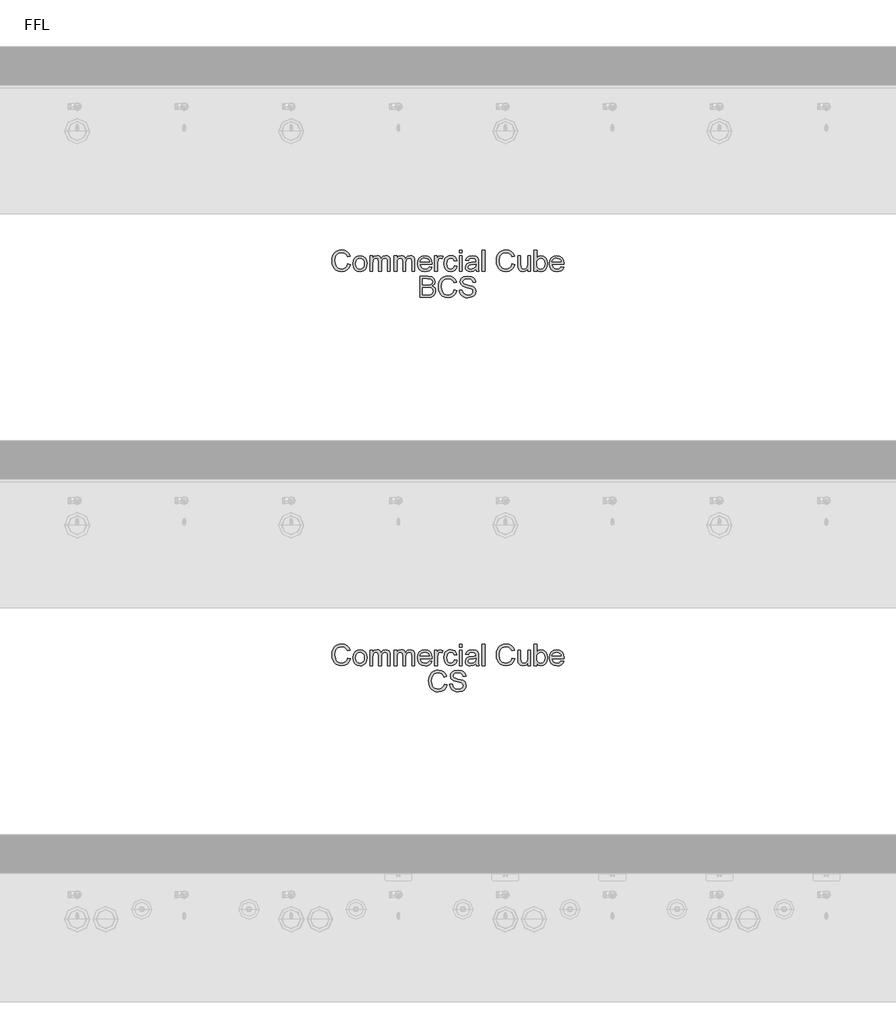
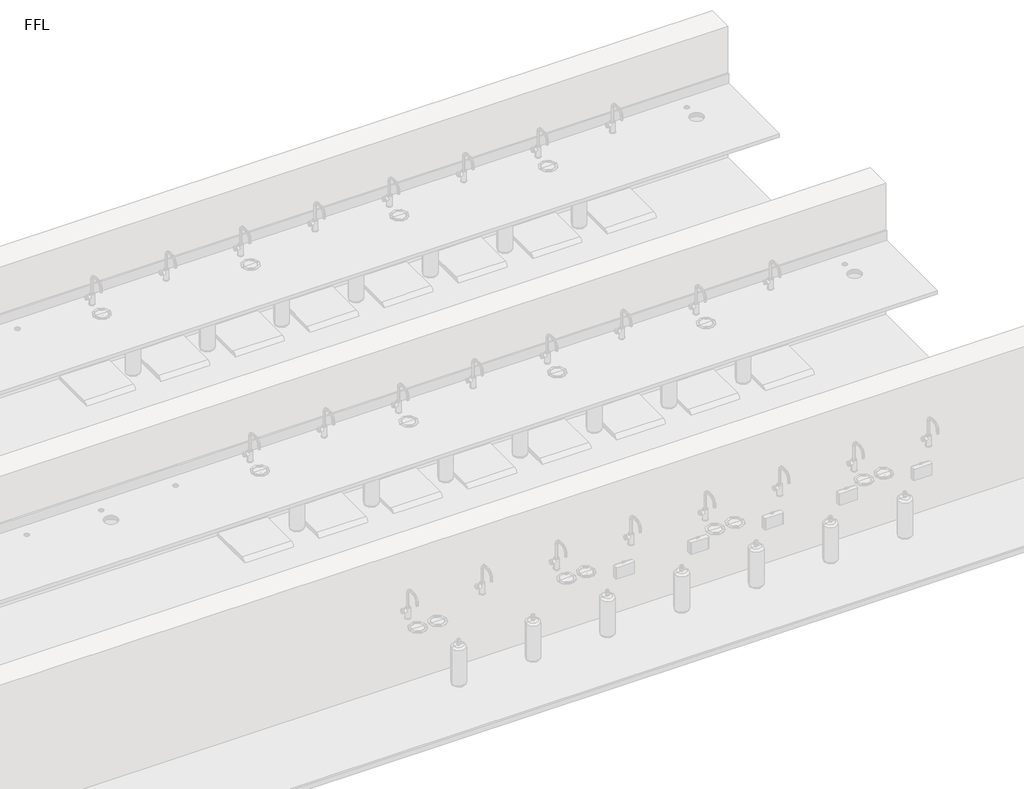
# One storey, part 13 of 14: 2 proxies.
"""IFC4 building model written with IfcOpenShell, lengths in millimetres."""

from ifc_helpers import new_model, si_unit, origin, origin_with_axes, place, context, project, spatial, polyline, outline, extrude, element, save

model = new_model("IFC4")

# Units and contexts
model_context = context("Model", 3, world=origin())
ifc_project = project(units=[si_unit("LENGTHUNIT", "METRE", prefix="MILLI")], contexts=[model_context])

# Site, building, storey
site = spatial("IfcSite", under=ifc_project)
building = spatial("IfcBuilding", under=site)
storey = spatial("IfcBuildingStorey", under=building, Name="FFL", Elevation=0.0)

# Proxies
placement = place(None, origin())
element("IfcBuildingElementProxy", 1, Name="150mm Arial", ObjectType="150mm Arial", at=placement, inside=storey, context=model_context, shape_type="SweptSolid", body=[
    extrude(outline(polyline([(6926.0339379, 3836.3018309), (6944.4954764, 3831.5422155), (6935.9768466, 3810.0292948), (6922.6084571, 3794.3126482), (6905.048361, 3784.698766), (6883.954611, 3781.4941386), (6862.540849, 3783.9190184), (6845.5351398, 3791.1936578), (6832.5002841, 3803.065653), (6822.9990821, 3819.2826001), (6817.1983009, 3838.3481049), (6815.2647071, 3858.7657732), (6817.4507047, 3880.3012299), (6824.0086975, 3898.8979847), (6834.5961374, 3913.9655929), (6848.8704764, 3924.9136097), (6865.7995629, 3931.5797756), (6884.3512456, 3933.8018309), (6904.5931326, 3930.9262299), (6921.3284091, 3922.299427), (6934.0342384, 3908.4532732), (6942.1877841, 3889.9196193), (6923.7262456, 3885.5205809), (6917.3260052, 3898.9836217), (6908.5820148, 3908.2188982), (6897.3861014, 3913.5599439), (6883.6300917, 3915.3402924), (6867.7737216, 3913.3661338), (6854.7478802, 3907.4436578), (6844.8635653, 3898.1948597), (6838.4317744, 3886.2417347), (6833.7262456, 3858.8018309), (6839.2971591, 3826.9989463), (6846.4185533, 3815.1224439), (6856.6409091, 3806.6804367), (6868.8960172, 3801.6368669), (6882.1156687, 3799.955677), (6897.5258249, 3802.2453405), (6910.3668706, 3809.1143309), (6920.0618826, 3820.4905328), (6926.0339379, 3836.3018309)])), origin_with_axes(), (0.0, 0.0, 1.0), 5.0),
    extrude(outline(polyline([(6962.9570148, 3838.0326001), (6966.9504042, 3864.1834415), (6978.9305725, 3882.5638501), (6993.7322552, 3891.5692588), (7011.454611, 3894.5710617), (7030.8491422, 3890.9157131), (7046.3404283, 3879.9496674), (7056.4951759, 3862.5383092), (7059.8800917, 3839.5470232), (7058.3836975, 3820.8961818), (7053.8945148, 3806.6984655), (7046.5432528, 3796.0659535), (7036.4606206, 3788.1107251), (7024.4849595, 3783.1482852), (7011.454611, 3781.4941386), (6991.8257047, 3785.1359655), (6976.3524475, 3796.0614463), (6966.305873, 3813.8378886), (6962.9570148, 3838.0326001)]), holes=[polyline([(6981.4185533, 3838.0686578), (6983.5549716, 3821.3604246), (6989.9642264, 3809.456879), (6999.6096591, 3802.3309775), (7011.454611, 3799.955677), (7023.2454764, 3802.3444992), (7032.8728802, 3809.5109655), (7039.282135, 3821.5722636), (7041.4185533, 3838.6455809), (7039.2686134, 3854.8670352), (7032.8187937, 3866.6083213), (7023.1778682, 3873.7342227), (7011.454611, 3876.1095232), (6999.6096591, 3873.7432371), (6989.9642264, 3866.644379), (6983.5549716, 3854.7678766), (6981.4185533, 3838.0686578)])]), origin_with_axes(), (0.0, 0.0, 1.0), 5.0),
    extrude(outline(polyline([(7080.6493225, 3783.8018309), (7080.6493225, 3892.2633693), (7099.110861, 3892.2633693), (7099.110861, 3874.4148117), (7111.8031687, 3889.0362059), (7129.8680725, 3894.5710617), (7140.1355004, 3893.1603044), (7148.3656687, 3888.9280328), (7158.5339379, 3873.1167347), (7172.938986, 3889.2074799), (7191.1300917, 3894.5710617), (7205.0077961, 3892.3399919), (7215.2707167, 3885.6467828), (7221.6123634, 3874.3111458), (7223.7262456, 3858.1527924), (7223.7262456, 3783.8018309), (7205.2647071, 3783.8018309), (7205.2647071, 3850.2201001), (7203.5519667, 3865.6347636), (7197.3500437, 3873.2249078), (7186.8031687, 3876.1095232), (7176.8016663, 3874.2615665), (7168.6481206, 3868.7176963), (7163.2259451, 3859.0993068), (7161.4185533, 3845.0277924), (7161.4185533, 3783.8018309), (7142.9570148, 3783.8018309), (7142.9570148, 3852.2753886), (7138.6841783, 3870.160004), (7133.0456566, 3874.6221434), (7124.6757648, 3876.1095232), (7111.0098994, 3872.143177), (7101.923361, 3860.5326001), (7099.110861, 3838.5013501), (7099.110861, 3783.8018309), (7080.6493225, 3783.8018309)])), origin_with_axes(), (0.0, 0.0, 1.0), 5.0),
    extrude(outline(polyline([(7251.4185533, 3783.8018309), (7251.4185533, 3892.2633693), (7269.8800917, 3892.2633693), (7269.8800917, 3874.4148117), (7282.5723994, 3889.0362059), (7300.6373033, 3894.5710617), (7310.9047312, 3893.1603044), (7319.1348994, 3888.9280328), (7329.3031687, 3873.1167347), (7343.7082167, 3889.2074799), (7361.8993225, 3894.5710617), (7375.7770268, 3892.3399919), (7386.0399475, 3885.6467828), (7392.3815941, 3874.3111458), (7394.4954764, 3858.1527924), (7394.4954764, 3783.8018309), (7376.0339379, 3783.8018309), (7376.0339379, 3850.2201001), (7374.3211975, 3865.6347636), (7368.1192744, 3873.2249078), (7357.5723994, 3876.1095232), (7347.570897, 3874.2615665), (7339.4173514, 3868.7176963), (7333.9951759, 3859.0993068), (7332.1877841, 3845.0277924), (7332.1877841, 3783.8018309), (7313.7262456, 3783.8018309), (7313.7262456, 3852.2753886), (7309.4534091, 3870.160004), (7303.8148874, 3874.6221434), (7295.4449956, 3876.1095232), (7281.7791302, 3872.143177), (7272.6925917, 3860.5326001), (7269.8800917, 3838.5013501), (7269.8800917, 3783.8018309), (7251.4185533, 3783.8018309)])), origin_with_axes(), (0.0, 0.0, 1.0), 5.0),
    extrude(outline(polyline([(7498.1252841, 3816.1095232), (7516.2262456, 3813.8018309), (7509.7043105, 3800.1630088), (7499.2971591, 3789.9676963), (7485.2391663, 3783.612528), (7467.7647071, 3781.4941386), (7446.1030485, 3785.1494871), (7429.4353802, 3796.1155328), (7418.8073754, 3813.6801362), (7415.2647071, 3837.1311578), (7418.8434331, 3861.3709415), (7429.579611, 3879.4989463), (7446.0219187, 3890.8030328), (7466.7190341, 3894.5710617), (7486.7716182, 3890.8120472), (7502.7947552, 3879.535004), (7513.3010653, 3861.4430568), (7516.8031687, 3837.2393309), (7516.6949956, 3832.2633693), (7433.7262456, 3832.2633693), (7436.9218586, 3818.4442588), (7444.345236, 3808.285004), (7455.0588778, 3802.0380088), (7468.1252841, 3799.955677), (7486.2262456, 3803.8138501), (7498.1252841, 3816.1095232)]), holes=[polyline([(7433.7262456, 3850.7249078), (7498.3416302, 3850.7249078), (7495.844635, 3860.4785136), (7490.9498033, 3867.455677), (7480.1865821, 3873.9460617), (7466.6469187, 3876.1095232), (7454.2025076, 3874.3832612), (7443.9125437, 3869.2044751), (7436.759599, 3861.1320592), (7433.7262456, 3850.7249078)])]), origin_with_axes(), (0.0, 0.0, 1.0), 5.0),
    extrude(outline(polyline([(7535.2647071, 3783.8018309), (7535.2647071, 3892.2633693), (7551.4185533, 3892.2633693), (7551.4185533, 3876.2176963), (7562.8848994, 3891.0013501), (7574.423361, 3894.5710617), (7592.9570148, 3888.8739463), (7586.7911494, 3872.3234655), (7573.8103802, 3876.1095232), (7563.3716783, 3872.4676963), (7556.7190341, 3862.3715424), (7553.7262456, 3840.8090424), (7553.7262456, 3783.8018309), (7535.2647071, 3783.8018309)])), origin_with_axes(), (0.0, 0.0, 1.0), 5.0),
    extrude(outline(polyline([(7673.7262456, 3823.0326001), (7692.1877841, 3820.7249078), (7687.0405485, 3804.3051362), (7677.3680725, 3791.8967828), (7664.0808129, 3784.0947996), (7648.0892264, 3781.4941386), (7628.4513057, 3785.1224439), (7613.095236, 3796.0073597), (7603.1838778, 3813.6711217), (7599.8800917, 3837.6359655), (7605.5231206, 3868.3030328), (7612.6445148, 3879.8009294), (7622.7226398, 3888.0085617), (7634.7794307, 3892.9304367), (7647.8368225, 3894.5710617), (7663.4362816, 3892.3174559), (7675.907736, 3885.5566386), (7684.8545509, 3874.6491867), (7689.8800917, 3859.955677), (7671.4185533, 3857.6479847), (7662.8548514, 3871.4761097), (7647.9810533, 3876.1095232), (7636.0504643, 3873.8288742), (7626.5808129, 3866.986927), (7620.4014259, 3855.2140905), (7618.3416302, 3838.1407732), (7620.3563538, 3820.8375881), (7626.4005244, 3809.0241867), (7635.6989018, 3802.2228044), (7647.4762456, 3799.955677), (7657.0360413, 3801.3709415), (7664.8740821, 3805.6167347), (7670.5757047, 3812.8012299), (7673.7262456, 3823.0326001)])), origin_with_axes(), (0.0, 0.0, 1.0), 5.0),
    extrude(outline(polyline([(7708.3416302, 3913.0326001), (7708.3416302, 3931.4941386), (7726.8031687, 3931.4941386), (7726.8031687, 3913.0326001), (7708.3416302, 3913.0326001)])), origin_with_axes(), (0.0, 0.0, 1.0), 5.0),
    extrude(outline(polyline([(7708.3416302, 3783.8018309), (7708.3416302, 3892.2633693), (7726.8031687, 3892.2633693), (7726.8031687, 3783.8018309), (7708.3416302, 3783.8018309)])), origin_with_axes(), (0.0, 0.0, 1.0), 5.0),
    extrude(outline(polyline([(7823.7262456, 3797.6479847), (7805.8236014, 3785.1359655), (7786.0459571, 3781.4941386), (7770.617772, 3783.6846434), (7759.2370629, 3790.2561578), (7752.2193345, 3800.2351242), (7749.8800917, 3812.6479847), (7753.4137456, 3827.2513501), (7762.6986014, 3837.8523117), (7775.6252841, 3843.910004), (7791.5988417, 3846.6864463), (7823.6180725, 3853.0326001), (7823.7262456, 3857.143177), (7822.4552119, 3865.3823597), (7818.642111, 3870.7729847), (7810.1144667, 3874.7753886), (7798.2334571, 3876.1095232), (7779.5555725, 3872.5578405), (7770.6493225, 3859.955677), (7752.1877841, 3862.2633693), (7760.1745629, 3880.2922155), (7776.2562937, 3890.8571193), (7800.6132648, 3894.5710617), (7822.9870629, 3891.2898117), (7835.6252841, 3883.050629), (7841.2863417, 3870.5205809), (7842.1877841, 3854.3667347), (7842.1877841, 3831.3979847), (7843.1252841, 3799.3246674), (7846.8031687, 3783.8018309), (7828.3416302, 3783.8018309), (7823.7262456, 3797.6479847)]), holes=[polyline([(7823.7262456, 3834.5710617), (7793.9425917, 3828.910004), (7778.0591783, 3825.9172155), (7770.8656687, 3821.049427), (7768.3416302, 3813.9460617), (7773.8404283, 3803.9580809), (7789.9762456, 3799.955677), (7808.6541302, 3804.3727443), (7820.6973994, 3815.0638501), (7823.6180725, 3829.3426963), (7823.7262456, 3834.5710617)])]), origin_with_axes(), (0.0, 0.0, 1.0), 5.0),
    extrude(outline(polyline([(7867.5723994, 3783.8018309), (7867.5723994, 3931.4941386), (7886.0339379, 3931.4941386), (7886.0339379, 3783.8018309), (7867.5723994, 3783.8018309)])), origin_with_axes(), (0.0, 0.0, 1.0), 5.0),
    extrude(outline(polyline([(8077.5723994, 3836.3018309), (8096.0339379, 3831.5422155), (8087.5153081, 3810.0292948), (8074.1469187, 3794.3126482), (8056.5868225, 3784.698766), (8035.4930725, 3781.4941386), (8014.0793105, 3783.9190184), (7997.0736014, 3791.1936578), (7984.0387456, 3803.065653), (7974.5375437, 3819.2826001), (7968.7367624, 3838.3481049), (7966.8031687, 3858.7657732), (7968.9891663, 3880.3012299), (7975.5471591, 3898.8979847), (7986.134599, 3913.9655929), (8000.4089379, 3924.9136097), (8017.3380244, 3931.5797756), (8035.8897071, 3933.8018309), (8056.1315941, 3930.9262299), (8072.8668706, 3922.299427), (8085.5726999, 3908.4532732), (8093.7262456, 3889.9196193), (8075.2647071, 3885.5205809), (8068.8644667, 3898.9836217), (8060.1204764, 3908.2188982), (8048.9245629, 3913.5599439), (8035.1685533, 3915.3402924), (8019.3121831, 3913.3661338), (8006.2863417, 3907.4436578), (7996.4020268, 3898.1948597), (7989.970236, 3886.2417347), (7985.2647071, 3858.8018309), (7990.8356206, 3826.9989463), (7997.9570148, 3815.1224439), (8008.1793706, 3806.6804367), (8020.4344788, 3801.6368669), (8033.6541302, 3799.955677), (8049.0642865, 3802.2453405), (8061.9053321, 3809.1143309), (8071.6003441, 3820.4905328), (8077.5723994, 3836.3018309)])), origin_with_axes(), (0.0, 0.0, 1.0), 5.0),
    extrude(outline(polyline([(8188.3416302, 3783.8018309), (8188.3416302, 3802.4436578), (8173.8824956, 3786.7315184), (8155.0243225, 3781.4941386), (8137.6625437, 3785.1720232), (8125.6913898, 3794.4027924), (8120.1925917, 3807.9965424), (8119.110861, 3825.160004), (8119.110861, 3892.2633693), (8137.5723994, 3892.2633693), (8137.5723994, 3833.8499078), (8138.6901879, 3815.0277924), (8145.9918706, 3803.9761097), (8159.7478802, 3799.955677), (8175.1625437, 3804.066254), (8185.3488417, 3815.2621674), (8188.3416302, 3835.8330809), (8188.3416302, 3892.2633693), (8206.8031687, 3892.2633693), (8206.8031687, 3783.8018309), (8188.3416302, 3783.8018309)])), origin_with_axes(), (0.0, 0.0, 1.0), 5.0),
    extrude(outline(polyline([(8250.6493225, 3783.8018309), (8232.1877841, 3783.8018309), (8232.1877841, 3931.4941386), (8250.6493225, 3931.4941386), (8250.6493225, 3876.722504), (8263.5760052, 3890.1089222), (8279.6397071, 3894.5710617), (8298.1373033, 3890.550629), (8312.4882648, 3879.2465424), (8321.3043706, 3861.6684174), (8324.4954764, 3839.6551963), (8321.1916903, 3815.0097636), (8311.2803321, 3796.674427), (8296.7355605, 3785.2892107), (8279.5315341, 3781.4941386), (8263.1162696, 3786.3889703), (8250.6493225, 3801.0734655), (8250.6493225, 3783.8018309)]), holes=[polyline([(8250.6493225, 3838.7898117), (8251.9113417, 3823.393177), (8255.6973994, 3812.972504), (8265.3698754, 3803.2098838), (8277.9449956, 3799.955677), (8288.6000437, 3802.3535136), (8297.704611, 3809.5470232), (8303.9516062, 3821.4911338), (8306.0339379, 3838.1407732), (8304.0372432, 3855.033802), (8298.0471591, 3866.8426963), (8289.2265461, 3873.7928165), (8278.7382648, 3876.1095232), (8268.0832167, 3873.7116867), (8258.9786494, 3866.518177), (8252.7316542, 3854.7904126), (8250.6493225, 3838.7898117)])]), origin_with_axes(), (0.0, 0.0, 1.0), 5.0),
    extrude(outline(polyline([(8421.2022071, 3816.1095232), (8439.3031687, 3813.8018309), (8432.7812336, 3800.1630088), (8422.3740821, 3789.9676963), (8408.3160893, 3783.612528), (8390.8416302, 3781.4941386), (8369.1799716, 3785.1494871), (8352.5123033, 3796.1155328), (8341.8842985, 3813.6801362), (8338.3416302, 3837.1311578), (8341.9203562, 3861.3709415), (8352.6565341, 3879.4989463), (8369.0988417, 3890.8030328), (8389.7959571, 3894.5710617), (8409.8485413, 3890.8120472), (8425.8716783, 3879.535004), (8436.3779884, 3861.4430568), (8439.8800917, 3837.2393309), (8439.7719187, 3832.2633693), (8356.8031687, 3832.2633693), (8359.9987816, 3818.4442588), (8367.4221591, 3808.285004), (8378.1358009, 3802.0380088), (8391.2022071, 3799.955677), (8409.3031687, 3803.8138501), (8421.2022071, 3816.1095232)]), holes=[polyline([(8356.8031687, 3850.7249078), (8421.4185533, 3850.7249078), (8418.9215581, 3860.4785136), (8414.0267264, 3867.455677), (8403.2635052, 3873.9460617), (8389.7238417, 3876.1095232), (8377.2794307, 3874.3832612), (8366.9894667, 3869.2044751), (8359.836522, 3861.1320592), (8356.8031687, 3850.7249078)])]), origin_with_axes(), (0.0, 0.0, 1.0), 5.0),
    extrude(outline(polyline([(7431.4185533, 3601.4941386), (7431.4185533, 3749.1864463), (7487.7767264, 3749.1864463), (7515.3788898, 3744.8414943), (7524.6547312, 3739.3291746), (7531.6769667, 3731.4821193), (7537.5723994, 3712.5878886), (7532.6144667, 3695.3342828), (7517.6324956, 3682.2633693), (7528.0937336, 3676.800629), (7535.8236014, 3668.4893309), (7540.5967384, 3657.8793549), (7542.1877841, 3645.5205809), (7537.8428321, 3625.6708213), (7527.079611, 3611.5362059), (7511.0159091, 3604.0362059), (7487.3440341, 3601.4941386), (7431.4185533, 3601.4941386)]), holes=[polyline([(7449.8800917, 3689.1864463), (7483.5940341, 3689.1864463), (7503.2815341, 3690.7729847), (7515.126486, 3697.6059174), (7519.110861, 3709.6311578), (7515.3969187, 3721.674427), (7504.7598994, 3728.7958213), (7481.0339379, 3730.7249078), (7449.8800917, 3730.7249078), (7449.8800917, 3689.1864463)]), polyline([(7449.8800917, 3619.955677), (7487.7406687, 3619.955677), (7501.4425917, 3620.6768309), (7513.0351398, 3624.6972636), (7520.7154283, 3632.9003886), (7523.7262456, 3645.3402924), (7520.1925917, 3659.691254), (7508.7442744, 3668.2549559), (7485.9377841, 3670.7249078), (7449.8800917, 3670.7249078), (7449.8800917, 3619.955677)])]), origin_with_axes(), (0.0, 0.0, 1.0), 5.0),
    extrude(outline(polyline([(7671.4185533, 3653.9941386), (7689.8800917, 3649.2345232), (7681.3614619, 3627.7216025), (7667.9930725, 3612.0049559), (7650.4329764, 3602.3910737), (7629.3392264, 3599.1864463), (7607.9254643, 3601.6113261), (7590.9197552, 3608.8859655), (7577.8848994, 3620.7579607), (7568.3836975, 3636.9749078), (7562.5829163, 3656.0404126), (7560.6493225, 3676.4580809), (7562.8353201, 3697.9935376), (7569.3933129, 3716.5902924), (7579.9807528, 3731.6579006), (7594.2550917, 3742.6059174), (7611.1841783, 3749.2720833), (7629.735861, 3751.4941386), (7649.977748, 3748.6185376), (7666.7130244, 3739.9917347), (7679.4188538, 3726.1455809), (7687.5723994, 3707.611927), (7669.110861, 3703.2128886), (7662.7106206, 3716.6759294), (7653.9666302, 3725.9112059), (7642.7707167, 3731.2522516), (7629.0147071, 3733.0326001), (7613.1583369, 3731.0584415), (7600.1324956, 3725.1359655), (7590.2481807, 3715.8871674), (7583.8163898, 3703.9340424), (7579.110861, 3676.4941386), (7584.6817744, 3644.691254), (7591.8031687, 3632.8147516), (7602.0255244, 3624.3727443), (7614.2806326, 3619.3291746), (7627.5002841, 3617.6479847), (7642.9104403, 3619.9376482), (7655.751486, 3626.8066386), (7665.446498, 3638.1828405), (7671.4185533, 3653.9941386)])), origin_with_axes(), (0.0, 0.0, 1.0), 5.0),
    extrude(outline(polyline([(7708.3416302, 3652.2633693), (7726.8031687, 3652.2633693), (7732.7526879, 3633.783802), (7747.2839379, 3622.1011097), (7769.423361, 3617.6479847), (7788.7142264, 3621.019379), (7801.1721591, 3630.2862059), (7805.2647071, 3642.6720232), (7802.1998033, 3654.1924559), (7789.6517264, 3662.5758693), (7762.7707167, 3669.6251482), (7733.8344187, 3678.7297155), (7718.1312937, 3692.4676963), (7712.9570148, 3710.8210617), (7714.5570749, 3721.6338621), (7719.3572552, 3731.7164943), (7727.2313538, 3740.2621674), (7738.0531687, 3746.4640905), (7765.4209571, 3751.4941386), (7794.6276879, 3746.2297155), (7805.8236014, 3739.7303165), (7814.0988417, 3730.7609655), (7819.3362216, 3719.8805568), (7821.4185533, 3707.6479847), (7802.9570148, 3707.6479847), (7799.5675917, 3718.6636097), (7792.5002841, 3726.6143309), (7781.4576158, 3731.4280328), (7766.142111, 3733.0326001), (7750.4660292, 3731.4460617), (7739.7118225, 3726.6864463), (7733.4918706, 3719.6822395), (7731.4185533, 3711.361927), (7732.8879042, 3704.2675761), (7737.2959571, 3698.5614463), (7767.4401879, 3688.2489463), (7800.1084571, 3678.9821193), (7810.6327961, 3672.284403), (7817.9750437, 3664.018177), (7823.7262456, 3643.1407732), (7822.072099, 3631.7600641), (7817.1096591, 3621.0554367), (7809.0417504, 3611.8426963), (7798.0711975, 3604.9376482), (7770.1445148, 3599.1864463), (7752.0570749, 3600.736927), (7737.1697552, 3605.3883693), (7725.3112816, 3613.158802), (7716.3103802, 3624.066254), (7710.532135, 3637.3535136), (7708.3416302, 3652.2633693)])), origin_with_axes(), (0.0, 0.0, 1.0), 5.0),
])
element("IfcBuildingElementProxy", 2, Name="150mm Arial", ObjectType="150mm Arial", at=placement, inside=storey, context=model_context, shape_type="SweptSolid", body=[
    extrude(outline(polyline([(6926.0339379, 1076.3018309), (6944.4954764, 1071.5422155), (6935.9768466, 1050.0292948), (6922.6084571, 1034.3126482), (6905.048361, 1024.698766), (6883.954611, 1021.4941386), (6862.540849, 1023.9190184), (6845.5351398, 1031.1936578), (6832.5002841, 1043.065653), (6822.9990821, 1059.2826001), (6817.1983009, 1078.3481049), (6815.2647071, 1098.7657732), (6817.4507047, 1120.3012299), (6824.0086975, 1138.8979847), (6834.5961374, 1153.9655929), (6848.8704764, 1164.9136097), (6865.7995629, 1171.5797756), (6884.3512456, 1173.8018309), (6904.5931326, 1170.9262299), (6921.3284091, 1162.299427), (6934.0342384, 1148.4532732), (6942.1877841, 1129.9196193), (6923.7262456, 1125.5205809), (6917.3260052, 1138.9836217), (6908.5820148, 1148.2188982), (6897.3861014, 1153.5599439), (6883.6300917, 1155.3402924), (6867.7737216, 1153.3661338), (6854.7478802, 1147.4436578), (6844.8635653, 1138.1948597), (6838.4317744, 1126.2417347), (6833.7262456, 1098.8018309), (6839.2971591, 1066.9989463), (6846.4185533, 1055.1224439), (6856.6409091, 1046.6804367), (6868.8960172, 1041.6368669), (6882.1156687, 1039.955677), (6897.5258249, 1042.2453405), (6910.3668706, 1049.1143309), (6920.0618826, 1060.4905328), (6926.0339379, 1076.3018309)])), origin_with_axes(), (0.0, 0.0, 1.0), 5.0),
    extrude(outline(polyline([(6962.9570148, 1078.0326001), (6966.9504042, 1104.1834415), (6978.9305725, 1122.5638501), (6993.7322552, 1131.5692588), (7011.454611, 1134.5710617), (7030.8491422, 1130.9157131), (7046.3404283, 1119.9496674), (7056.4951759, 1102.5383092), (7059.8800917, 1079.5470232), (7058.3836975, 1060.8961818), (7053.8945148, 1046.6984655), (7046.5432528, 1036.0659535), (7036.4606206, 1028.1107251), (7024.4849595, 1023.1482852), (7011.454611, 1021.4941386), (6991.8257047, 1025.1359655), (6976.3524475, 1036.0614463), (6966.305873, 1053.8378886), (6962.9570148, 1078.0326001)]), holes=[polyline([(6981.4185533, 1078.0686578), (6983.5549716, 1061.3604246), (6989.9642264, 1049.456879), (6999.6096591, 1042.3309775), (7011.454611, 1039.955677), (7023.2454764, 1042.3444992), (7032.8728802, 1049.5109655), (7039.282135, 1061.5722636), (7041.4185533, 1078.6455809), (7039.2686134, 1094.8670352), (7032.8187937, 1106.6083213), (7023.1778682, 1113.7342227), (7011.454611, 1116.1095232), (6999.6096591, 1113.7432371), (6989.9642264, 1106.644379), (6983.5549716, 1094.7678766), (6981.4185533, 1078.0686578)])]), origin_with_axes(), (0.0, 0.0, 1.0), 5.0),
    extrude(outline(polyline([(7080.6493225, 1023.8018309), (7080.6493225, 1132.2633693), (7099.110861, 1132.2633693), (7099.110861, 1114.4148117), (7111.8031687, 1129.0362059), (7129.8680725, 1134.5710617), (7140.1355004, 1133.1603044), (7148.3656687, 1128.9280328), (7158.5339379, 1113.1167347), (7172.938986, 1129.2074799), (7191.1300917, 1134.5710617), (7205.0077961, 1132.3399919), (7215.2707167, 1125.6467828), (7221.6123634, 1114.3111458), (7223.7262456, 1098.1527924), (7223.7262456, 1023.8018309), (7205.2647071, 1023.8018309), (7205.2647071, 1090.2201001), (7203.5519667, 1105.6347636), (7197.3500437, 1113.2249078), (7186.8031687, 1116.1095232), (7176.8016663, 1114.2615665), (7168.6481206, 1108.7176963), (7163.2259451, 1099.0993068), (7161.4185533, 1085.0277924), (7161.4185533, 1023.8018309), (7142.9570148, 1023.8018309), (7142.9570148, 1092.2753886), (7138.6841783, 1110.160004), (7133.0456566, 1114.6221434), (7124.6757648, 1116.1095232), (7111.0098994, 1112.143177), (7101.923361, 1100.5326001), (7099.110861, 1078.5013501), (7099.110861, 1023.8018309), (7080.6493225, 1023.8018309)])), origin_with_axes(), (0.0, 0.0, 1.0), 5.0),
    extrude(outline(polyline([(7251.4185533, 1023.8018309), (7251.4185533, 1132.2633693), (7269.8800917, 1132.2633693), (7269.8800917, 1114.4148117), (7282.5723994, 1129.0362059), (7300.6373033, 1134.5710617), (7310.9047312, 1133.1603044), (7319.1348994, 1128.9280328), (7329.3031687, 1113.1167347), (7343.7082167, 1129.2074799), (7361.8993225, 1134.5710617), (7375.7770268, 1132.3399919), (7386.0399475, 1125.6467828), (7392.3815941, 1114.3111458), (7394.4954764, 1098.1527924), (7394.4954764, 1023.8018309), (7376.0339379, 1023.8018309), (7376.0339379, 1090.2201001), (7374.3211975, 1105.6347636), (7368.1192744, 1113.2249078), (7357.5723994, 1116.1095232), (7347.570897, 1114.2615665), (7339.4173514, 1108.7176963), (7333.9951759, 1099.0993068), (7332.1877841, 1085.0277924), (7332.1877841, 1023.8018309), (7313.7262456, 1023.8018309), (7313.7262456, 1092.2753886), (7309.4534091, 1110.160004), (7303.8148874, 1114.6221434), (7295.4449956, 1116.1095232), (7281.7791302, 1112.143177), (7272.6925917, 1100.5326001), (7269.8800917, 1078.5013501), (7269.8800917, 1023.8018309), (7251.4185533, 1023.8018309)])), origin_with_axes(), (0.0, 0.0, 1.0), 5.0),
    extrude(outline(polyline([(7498.1252841, 1056.1095232), (7516.2262456, 1053.8018309), (7509.7043105, 1040.1630088), (7499.2971591, 1029.9676963), (7485.2391663, 1023.612528), (7467.7647071, 1021.4941386), (7446.1030485, 1025.1494871), (7429.4353802, 1036.1155328), (7418.8073754, 1053.6801362), (7415.2647071, 1077.1311578), (7418.8434331, 1101.3709415), (7429.579611, 1119.4989463), (7446.0219187, 1130.8030328), (7466.7190341, 1134.5710617), (7486.7716182, 1130.8120472), (7502.7947552, 1119.535004), (7513.3010653, 1101.4430568), (7516.8031687, 1077.2393309), (7516.6949956, 1072.2633693), (7433.7262456, 1072.2633693), (7436.9218586, 1058.4442588), (7444.345236, 1048.285004), (7455.0588778, 1042.0380088), (7468.1252841, 1039.955677), (7486.2262456, 1043.8138501), (7498.1252841, 1056.1095232)]), holes=[polyline([(7433.7262456, 1090.7249078), (7498.3416302, 1090.7249078), (7495.844635, 1100.4785136), (7490.9498033, 1107.455677), (7480.1865821, 1113.9460617), (7466.6469187, 1116.1095232), (7454.2025076, 1114.3832612), (7443.9125437, 1109.2044751), (7436.759599, 1101.1320592), (7433.7262456, 1090.7249078)])]), origin_with_axes(), (0.0, 0.0, 1.0), 5.0),
    extrude(outline(polyline([(7535.2647071, 1023.8018309), (7535.2647071, 1132.2633693), (7551.4185533, 1132.2633693), (7551.4185533, 1116.2176963), (7562.8848994, 1131.0013501), (7574.423361, 1134.5710617), (7592.9570148, 1128.8739463), (7586.7911494, 1112.3234655), (7573.8103802, 1116.1095232), (7563.3716783, 1112.4676963), (7556.7190341, 1102.3715424), (7553.7262456, 1080.8090424), (7553.7262456, 1023.8018309), (7535.2647071, 1023.8018309)])), origin_with_axes(), (0.0, 0.0, 1.0), 5.0),
    extrude(outline(polyline([(7673.7262456, 1063.0326001), (7692.1877841, 1060.7249078), (7687.0405485, 1044.3051362), (7677.3680725, 1031.8967828), (7664.0808129, 1024.0947996), (7648.0892264, 1021.4941386), (7628.4513057, 1025.1224439), (7613.095236, 1036.0073597), (7603.1838778, 1053.6711217), (7599.8800917, 1077.6359655), (7605.5231206, 1108.3030328), (7612.6445148, 1119.8009294), (7622.7226398, 1128.0085617), (7634.7794307, 1132.9304367), (7647.8368225, 1134.5710617), (7663.4362816, 1132.3174559), (7675.907736, 1125.5566386), (7684.8545509, 1114.6491867), (7689.8800917, 1099.955677), (7671.4185533, 1097.6479847), (7662.8548514, 1111.4761097), (7647.9810533, 1116.1095232), (7636.0504643, 1113.8288742), (7626.5808129, 1106.986927), (7620.4014259, 1095.2140905), (7618.3416302, 1078.1407732), (7620.3563538, 1060.8375881), (7626.4005244, 1049.0241867), (7635.6989018, 1042.2228044), (7647.4762456, 1039.955677), (7657.0360413, 1041.3709415), (7664.8740821, 1045.6167347), (7670.5757047, 1052.8012299), (7673.7262456, 1063.0326001)])), origin_with_axes(), (0.0, 0.0, 1.0), 5.0),
    extrude(outline(polyline([(7708.3416302, 1153.0326001), (7708.3416302, 1171.4941386), (7726.8031687, 1171.4941386), (7726.8031687, 1153.0326001), (7708.3416302, 1153.0326001)])), origin_with_axes(), (0.0, 0.0, 1.0), 5.0),
    extrude(outline(polyline([(7708.3416302, 1023.8018309), (7708.3416302, 1132.2633693), (7726.8031687, 1132.2633693), (7726.8031687, 1023.8018309), (7708.3416302, 1023.8018309)])), origin_with_axes(), (0.0, 0.0, 1.0), 5.0),
    extrude(outline(polyline([(7823.7262456, 1037.6479847), (7805.8236014, 1025.1359655), (7786.0459571, 1021.4941386), (7770.617772, 1023.6846434), (7759.2370629, 1030.2561578), (7752.2193345, 1040.2351242), (7749.8800917, 1052.6479847), (7753.4137456, 1067.2513501), (7762.6986014, 1077.8523117), (7775.6252841, 1083.910004), (7791.5988417, 1086.6864463), (7823.6180725, 1093.0326001), (7823.7262456, 1097.143177), (7822.4552119, 1105.3823597), (7818.642111, 1110.7729847), (7810.1144667, 1114.7753886), (7798.2334571, 1116.1095232), (7779.5555725, 1112.5578405), (7770.6493225, 1099.955677), (7752.1877841, 1102.2633693), (7760.1745629, 1120.2922155), (7776.2562937, 1130.8571193), (7800.6132648, 1134.5710617), (7822.9870629, 1131.2898117), (7835.6252841, 1123.050629), (7841.2863417, 1110.5205809), (7842.1877841, 1094.3667347), (7842.1877841, 1071.3979847), (7843.1252841, 1039.3246674), (7846.8031687, 1023.8018309), (7828.3416302, 1023.8018309), (7823.7262456, 1037.6479847)]), holes=[polyline([(7823.7262456, 1074.5710617), (7793.9425917, 1068.910004), (7778.0591783, 1065.9172155), (7770.8656687, 1061.049427), (7768.3416302, 1053.9460617), (7773.8404283, 1043.9580809), (7789.9762456, 1039.955677), (7808.6541302, 1044.3727443), (7820.6973994, 1055.0638501), (7823.6180725, 1069.3426963), (7823.7262456, 1074.5710617)])]), origin_with_axes(), (0.0, 0.0, 1.0), 5.0),
    extrude(outline(polyline([(7867.5723994, 1023.8018309), (7867.5723994, 1171.4941386), (7886.0339379, 1171.4941386), (7886.0339379, 1023.8018309), (7867.5723994, 1023.8018309)])), origin_with_axes(), (0.0, 0.0, 1.0), 5.0),
    extrude(outline(polyline([(8077.5723994, 1076.3018309), (8096.0339379, 1071.5422155), (8087.5153081, 1050.0292948), (8074.1469187, 1034.3126482), (8056.5868225, 1024.698766), (8035.4930725, 1021.4941386), (8014.0793105, 1023.9190184), (7997.0736014, 1031.1936578), (7984.0387456, 1043.065653), (7974.5375437, 1059.2826001), (7968.7367624, 1078.3481049), (7966.8031687, 1098.7657732), (7968.9891663, 1120.3012299), (7975.5471591, 1138.8979847), (7986.134599, 1153.9655929), (8000.4089379, 1164.9136097), (8017.3380244, 1171.5797756), (8035.8897071, 1173.8018309), (8056.1315941, 1170.9262299), (8072.8668706, 1162.299427), (8085.5726999, 1148.4532732), (8093.7262456, 1129.9196193), (8075.2647071, 1125.5205809), (8068.8644667, 1138.9836217), (8060.1204764, 1148.2188982), (8048.9245629, 1153.5599439), (8035.1685533, 1155.3402924), (8019.3121831, 1153.3661338), (8006.2863417, 1147.4436578), (7996.4020268, 1138.1948597), (7989.970236, 1126.2417347), (7985.2647071, 1098.8018309), (7990.8356206, 1066.9989463), (7997.9570148, 1055.1224439), (8008.1793706, 1046.6804367), (8020.4344788, 1041.6368669), (8033.6541302, 1039.955677), (8049.0642865, 1042.2453405), (8061.9053321, 1049.1143309), (8071.6003441, 1060.4905328), (8077.5723994, 1076.3018309)])), origin_with_axes(), (0.0, 0.0, 1.0), 5.0),
    extrude(outline(polyline([(8188.3416302, 1023.8018309), (8188.3416302, 1042.4436578), (8173.8824956, 1026.7315184), (8155.0243225, 1021.4941386), (8137.6625437, 1025.1720232), (8125.6913898, 1034.4027924), (8120.1925917, 1047.9965424), (8119.110861, 1065.160004), (8119.110861, 1132.2633693), (8137.5723994, 1132.2633693), (8137.5723994, 1073.8499078), (8138.6901879, 1055.0277924), (8145.9918706, 1043.9761097), (8159.7478802, 1039.955677), (8175.1625437, 1044.066254), (8185.3488417, 1055.2621674), (8188.3416302, 1075.8330809), (8188.3416302, 1132.2633693), (8206.8031687, 1132.2633693), (8206.8031687, 1023.8018309), (8188.3416302, 1023.8018309)])), origin_with_axes(), (0.0, 0.0, 1.0), 5.0),
    extrude(outline(polyline([(8250.6493225, 1023.8018309), (8232.1877841, 1023.8018309), (8232.1877841, 1171.4941386), (8250.6493225, 1171.4941386), (8250.6493225, 1116.722504), (8263.5760052, 1130.1089222), (8279.6397071, 1134.5710617), (8298.1373033, 1130.550629), (8312.4882648, 1119.2465424), (8321.3043706, 1101.6684174), (8324.4954764, 1079.6551963), (8321.1916903, 1055.0097636), (8311.2803321, 1036.674427), (8296.7355605, 1025.2892107), (8279.5315341, 1021.4941386), (8263.1162696, 1026.3889703), (8250.6493225, 1041.0734655), (8250.6493225, 1023.8018309)]), holes=[polyline([(8250.6493225, 1078.7898117), (8251.9113417, 1063.393177), (8255.6973994, 1052.972504), (8265.3698754, 1043.2098838), (8277.9449956, 1039.955677), (8288.6000437, 1042.3535136), (8297.704611, 1049.5470232), (8303.9516062, 1061.4911338), (8306.0339379, 1078.1407732), (8304.0372432, 1095.033802), (8298.0471591, 1106.8426963), (8289.2265461, 1113.7928165), (8278.7382648, 1116.1095232), (8268.0832167, 1113.7116867), (8258.9786494, 1106.518177), (8252.7316542, 1094.7904126), (8250.6493225, 1078.7898117)])]), origin_with_axes(), (0.0, 0.0, 1.0), 5.0),
    extrude(outline(polyline([(8421.2022071, 1056.1095232), (8439.3031687, 1053.8018309), (8432.7812336, 1040.1630088), (8422.3740821, 1029.9676963), (8408.3160893, 1023.612528), (8390.8416302, 1021.4941386), (8369.1799716, 1025.1494871), (8352.5123033, 1036.1155328), (8341.8842985, 1053.6801362), (8338.3416302, 1077.1311578), (8341.9203562, 1101.3709415), (8352.6565341, 1119.4989463), (8369.0988417, 1130.8030328), (8389.7959571, 1134.5710617), (8409.8485413, 1130.8120472), (8425.8716783, 1119.535004), (8436.3779884, 1101.4430568), (8439.8800917, 1077.2393309), (8439.7719187, 1072.2633693), (8356.8031687, 1072.2633693), (8359.9987816, 1058.4442588), (8367.4221591, 1048.285004), (8378.1358009, 1042.0380088), (8391.2022071, 1039.955677), (8409.3031687, 1043.8138501), (8421.2022071, 1056.1095232)]), holes=[polyline([(8356.8031687, 1090.7249078), (8421.4185533, 1090.7249078), (8418.9215581, 1100.4785136), (8414.0267264, 1107.455677), (8403.2635052, 1113.9460617), (8389.7238417, 1116.1095232), (8377.2794307, 1114.3832612), (8366.9894667, 1109.2044751), (8359.836522, 1101.1320592), (8356.8031687, 1090.7249078)])]), origin_with_axes(), (0.0, 0.0, 1.0), 5.0),
    extrude(outline(polyline([(7603.3416302, 893.9941386), (7621.8031687, 889.2345232), (7613.2845389, 867.7216025), (7599.9161494, 852.0049559), (7582.3560533, 842.3910737), (7561.2623033, 839.1864463), (7539.8485413, 841.6113261), (7522.8428321, 848.8859655), (7509.8079764, 860.7579607), (7500.3067744, 876.9749078), (7494.5059932, 896.0404126), (7492.5723994, 916.4580809), (7494.758397, 937.9935376), (7501.3163898, 956.5902924), (7511.9038297, 971.6579006), (7526.1781687, 982.6059174), (7543.1072552, 989.2720833), (7561.6589379, 991.4941386), (7581.9008249, 988.6185376), (7598.6361014, 979.9917347), (7611.3419307, 966.1455809), (7619.4954764, 947.611927), (7601.0339379, 943.2128886), (7594.6336975, 956.6759294), (7585.8897071, 965.9112059), (7574.6937937, 971.2522516), (7560.9377841, 973.0326001), (7545.0814139, 971.0584415), (7532.0555725, 965.1359655), (7522.1712576, 955.8871674), (7515.7394667, 943.9340424), (7511.0339379, 916.4941386), (7516.6048514, 884.691254), (7523.7262456, 872.8147516), (7533.9486014, 864.3727443), (7546.2037095, 859.3291746), (7559.423361, 857.6479847), (7574.8335172, 859.9376482), (7587.6745629, 866.8066386), (7597.3695749, 878.1828405), (7603.3416302, 893.9941386)])), origin_with_axes(), (0.0, 0.0, 1.0), 5.0),
    extrude(outline(polyline([(7640.2647071, 892.2633693), (7658.7262456, 892.2633693), (7664.6757648, 873.783802), (7679.2070148, 862.1011097), (7701.3464379, 857.6479847), (7720.6373033, 861.019379), (7733.095236, 870.2862059), (7737.1877841, 882.6720232), (7734.1228802, 894.1924559), (7721.5748033, 902.5758693), (7694.6937937, 909.6251482), (7665.7574956, 918.7297155), (7650.0543706, 932.4676963), (7644.8800917, 950.8210617), (7646.4801518, 961.6338621), (7651.2803321, 971.7164943), (7659.1544307, 980.2621674), (7669.9762456, 986.4640905), (7697.3440341, 991.4941386), (7726.5507648, 986.2297155), (7737.7466783, 979.7303165), (7746.0219187, 970.7609655), (7751.2592985, 959.8805568), (7753.3416302, 947.6479847), (7734.8800917, 947.6479847), (7731.4906687, 958.6636097), (7724.423361, 966.6143309), (7713.3806927, 971.4280328), (7698.0651879, 973.0326001), (7682.3891062, 971.4460617), (7671.6348994, 966.6864463), (7665.4149475, 959.6822395), (7663.3416302, 951.361927), (7664.8109812, 944.2675761), (7669.2190341, 938.5614463), (7699.3632648, 928.2489463), (7732.0315341, 918.9821193), (7742.555873, 912.284403), (7749.8981206, 904.018177), (7755.6493225, 883.1407732), (7753.9951759, 871.7600641), (7749.032736, 861.0554367), (7740.9648273, 851.8426963), (7729.9942744, 844.9376482), (7702.0675917, 839.1864463), (7683.9801518, 840.736927), (7669.0928321, 845.3883693), (7657.2343586, 853.158802), (7648.2334571, 864.066254), (7642.4552119, 877.3535136), (7640.2647071, 892.2633693)])), origin_with_axes(), (0.0, 0.0, 1.0), 5.0),
])

save(model, "model.ifc")
